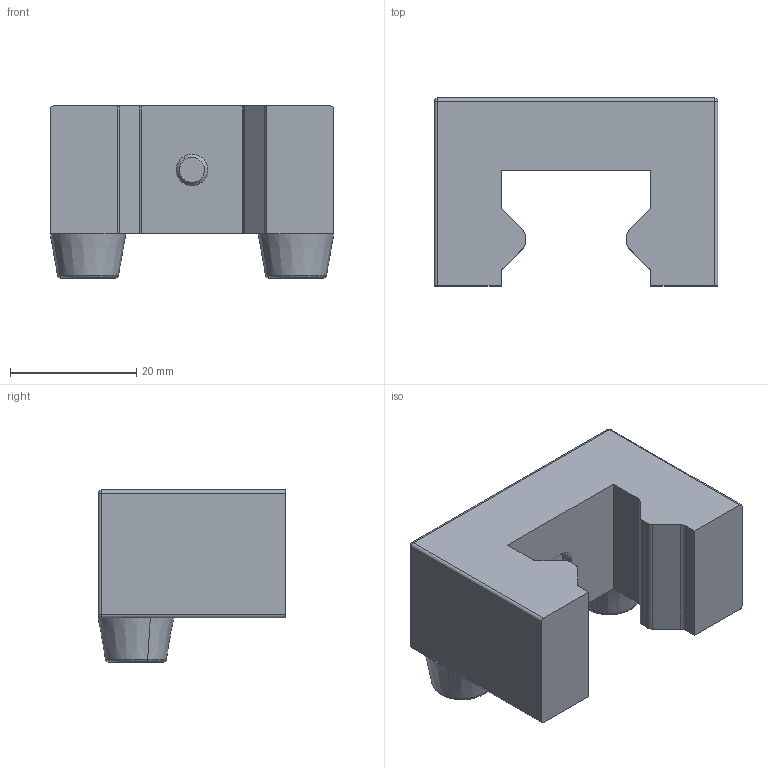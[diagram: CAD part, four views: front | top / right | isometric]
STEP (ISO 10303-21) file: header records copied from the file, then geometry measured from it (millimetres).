
FILE_DESCRIPTION (( 'STEP AP214' ), '1' );
FILE_NAME ('2.9028 Pys銛tinp鳵ty HG25.STEP', '2024-11-12T13:21:20', ( '' ), ( '' ), 'SwSTEP 2.0', 'SolidWorks 2024', '' );
FILE_SCHEMA (( 'AUTOMOTIVE_DESIGN' ));
Length unit declared in the file: millimetre
Products named in the file (6): countersunk flat head cross recess screw_iso_ISO 7046-1 - M3 x 10 - Z - 10N; Pysäytin; 2.9028 Pysäytinpääty HG25; socket set screw flat point_iso_ISO 4026 - M6 x 10-N; Kumipysäytin
Assembly tree (6 placements, depth 3):
  2.9028 Pysäytinpääty HG25
    2.9028 Pysäytinpääty HG25
    Pysäytin  x2
      Kumipysäytin
      countersunk flat head cross recess screw_iso_ISO 7046-1 - M3 x 10 - Z - 10N
    socket set screw flat point_iso_ISO 4026 - M6 x 10-N
Bounding box: 45 x 29.8 x 27.3 mm (x, y, z)
Volume: 20301.6 mm3; surface area: 7681.6 mm2
Topology: 6 solids, 6 shells, 226 faces, 551 edges, 336 vertices
Faces by surface type: plane 109, cylinder 40, cone 38, bspline 23, torus 12, sphere 4
Entity records: 7328 total; most frequent: CARTESIAN_POINT 2523, ORIENTED_EDGE 842, DIRECTION 786, EDGE_CURVE 421, VERTEX_POINT 266, AXIS2_PLACEMENT_3D 265, LINE 256, VECTOR 256
